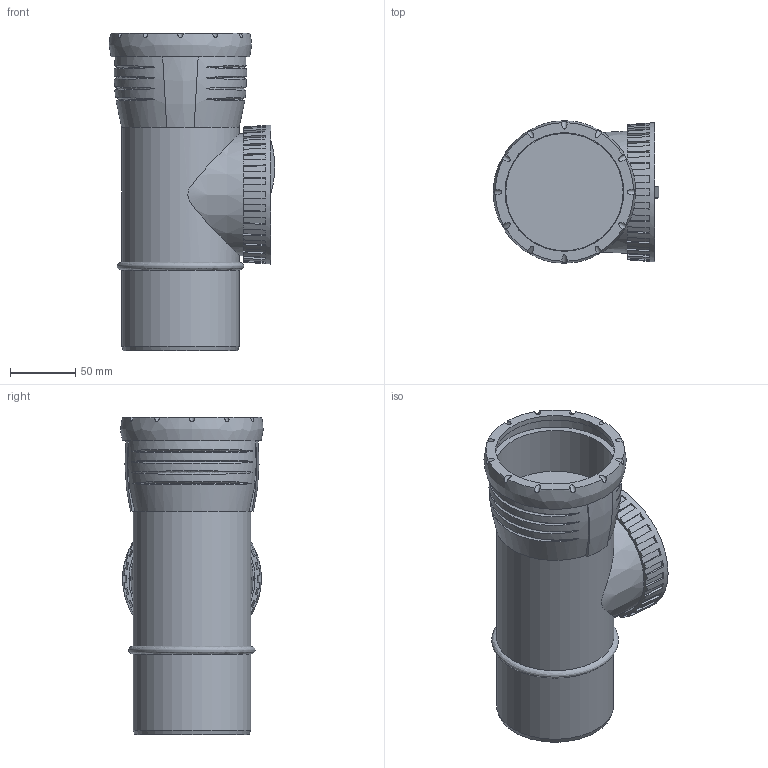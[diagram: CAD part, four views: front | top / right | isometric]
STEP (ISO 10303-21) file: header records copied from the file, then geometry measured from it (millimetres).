
FILE_DESCRIPTION(/* description */ (''),/* implementation_level */ '2;1');
FILE_NAME(/* name */ 'H:\Geberit-Teile\Export\Rein Stück PP\stp\393427.stp',/* time_stamp */ '2017-02-13T15:11:47+01:00',/* author */ ('seihe2'),/* organization */ (''),/* preprocessor_version */ 'ST-DEVELOPER v15.2',/* originating_system */ 'Autodesk Inventor 2014',/* authorisation */ '');
FILE_SCHEMA (('AUTOMOTIVE_DESIGN { 1 0 10303 214 3 1 1 }'));
Length unit declared in the file: millimetre
Products named in the file (1): 393427
Bounding box: 127.3 x 109.47 x 244 mm (x, y, z)
Volume: 1436825.7 mm3; surface area: 204085.7 mm2
Topology: 5 solids, 5 shells, 205 faces, 555 edges, 374 vertices
Faces by surface type: plane 148, bspline 24, cylinder 23, cone 10
Full cylindrical faces by diameter (mm): 74.497 x1, 81.6 x1, 90.2 x3, 90.9 x1, 91.2 x1, 94.16 x1, 100.2 x1
Entity records: 8812 total; most frequent: CARTESIAN_POINT 3784, ORIENTED_EDGE 1070, DIRECTION 896, EDGE_CURVE 534, VERTEX_POINT 369, AXIS2_PLACEMENT_3D 317, LINE 262, VECTOR 262
